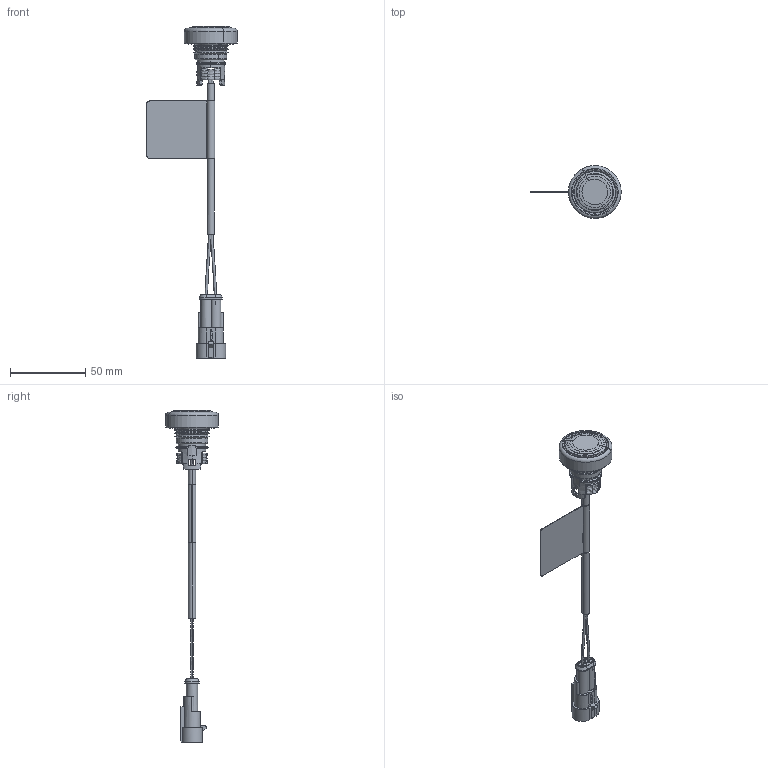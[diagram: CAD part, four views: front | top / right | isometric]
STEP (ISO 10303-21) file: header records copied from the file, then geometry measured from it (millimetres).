
FILE_DESCRIPTION(('CATIA V5 STEP Exchange','CAx-IF Rec.Pracs.--- Model Styling and Organization---1.5--- 2016-08-15','CAx-IF Rec.Pracs.---Supplemental Geometry---1.0---2011-11-01','CAx-IF Rec.Pracs.--- Composite Materials ---1.1---2010-07-15'),'2;1');
FILE_NAME('E:\tmp\ddx\2011205\HELLA_3D_data_LED_direction_indicator_lamp_cat-5_340-825_rubber_housing.stp','2022-01-18T06:57:15+00:00',('none'),('none'),'CATIA Version 5-6 Release 2020 SP3 HF9','CATIA V5 STEP AP214 Edition 3 v2','none');
FILE_SCHEMA(('AUTOMOTIVE_DESIGN { 1 0 10303 214 3 1 1 1 }'));
Length unit declared in the file: millimetre
Products named in the file (1): 10001553979_D10_001
Bounding box: 59.89 x 34.99 x 219.92 mm (x, y, z)
Volume: 23168.7 mm3; surface area: 20553.1 mm2
Topology: 1 solids, 5 shells, 658 faces, 1867 edges, 1164 vertices
Faces by surface type: plane 268, bspline 240, cylinder 77, torus 46, cone 18, revolution 7, extrusion 2
Entity records: 31957 total; most frequent: CARTESIAN_POINT 18087, ORIENTED_EDGE 3602, EDGE_CURVE 1801, DIRECTION 1589, VERTEX_POINT 1164, B_SPLINE_CURVE_WITH_KNOTS 888, EDGE_LOOP 695, VECTOR 664
